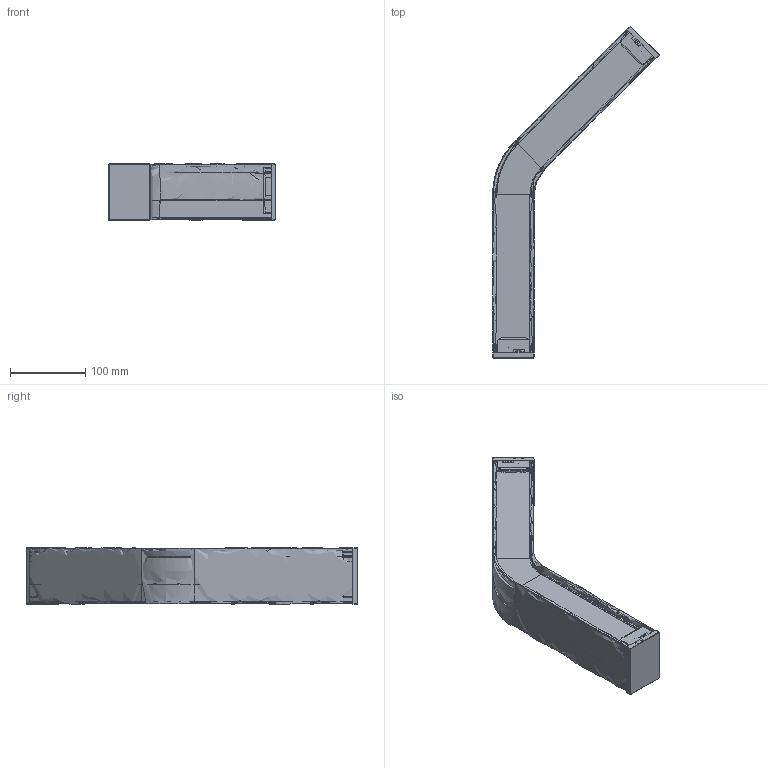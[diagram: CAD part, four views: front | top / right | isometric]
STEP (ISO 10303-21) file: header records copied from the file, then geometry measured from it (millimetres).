
FILE_DESCRIPTION(/* description */ (''),/* implementation_level */ '2;1');
FILE_NAME(/* name */ 'KISSA1~1',/* time_stamp */ '2026-04-24T13:56:14+02:00',/* author */ (''),/* organization */ (''),/* preprocessor_version */ 'ST-DEVELOPER v16.5',/* originating_system */ '',/* authorisation */ '');
FILE_SCHEMA (('AUTOMOTIVE_DESIGN'));
Products named in the file (1): Document
Bounding box: 221.12 x 440.39 x 75 mm (x, y, z)
Volume: 241457.2 mm3; surface area: 391111.7 mm2
Topology: 9 solids, 9 shells, 1922 faces, 5268 edges, 3366 vertices
Faces by surface type: bspline 1922
Entity records: 162290 total; most frequent: CARTESIAN_POINT 95108, B_SPLINE_CURVE_WITH_KNOTS 14556, ORIENTED_EDGE 10512, PCURVE 10512, DEFINITIONAL_REPRESENTATION 10512, SURFACE_CURVE 5256, EDGE_CURVE 5256, VERTEX_POINT 3366
